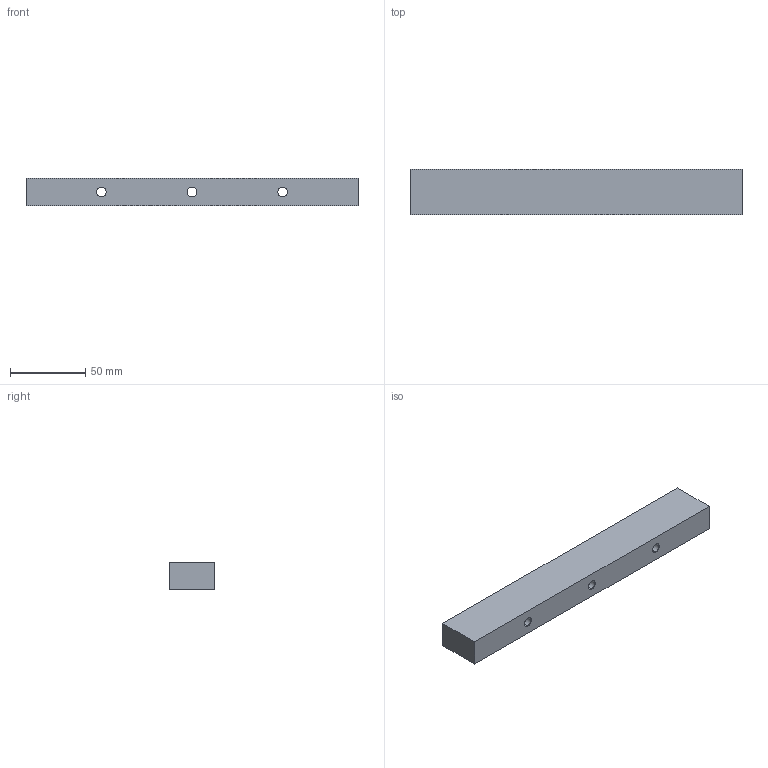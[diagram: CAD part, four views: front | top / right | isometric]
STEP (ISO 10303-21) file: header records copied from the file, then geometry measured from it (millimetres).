
FILE_DESCRIPTION(('CATIA V5 STEP Exchange'),'2;1');
FILE_NAME('D:\姚明阳\1、工装图纸\AGZ131\AGZ131.02_V2.stp','2025-06-28T07:45:56+00:00',('none'),('none'),'CATIA Version 5 Release 21 GA (IN-10)','CATIA V5 STEP AP214','none');
FILE_SCHEMA(('AUTOMOTIVE_DESIGN { 1 0 10303 214 1 1 1 1 }'));
Length unit declared in the file: millimetre
Products named in the file (1): AGZ131.02_V2
Bounding box: 220 x 29.9 x 18 mm (x, y, z)
Volume: 112458.4 mm3; surface area: 24804.2 mm2
Topology: 1 solids, 1 shells, 40 faces, 103 edges, 64 vertices
Faces by surface type: cylinder 23, plane 9, cone 8
Entity records: 1667 total; most frequent: CARTESIAN_POINT 506, ORIENTED_EDGE 190, DIRECTION 155, EDGE_CURVE 95, AXIS2_PLACEMENT_3D 66, VERTEX_POINT 64, EDGE_LOOP 53, VECTOR 52
